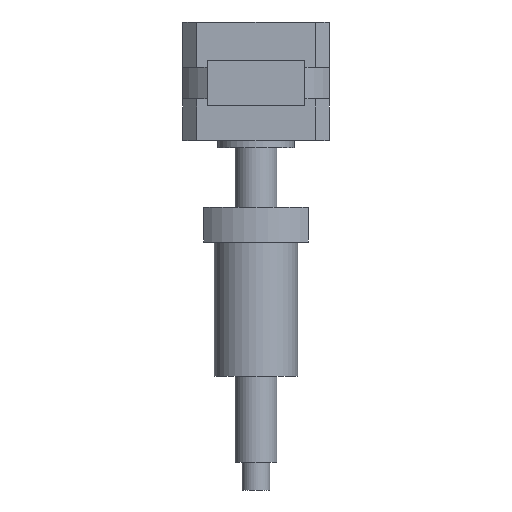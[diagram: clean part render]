
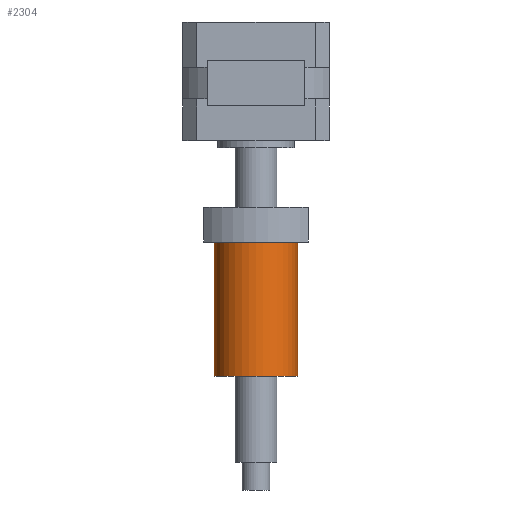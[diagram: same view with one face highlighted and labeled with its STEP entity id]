
A CAD part, front view. The second image highlights one B-rep face of the part: STEP entity #2304.
In plain terms, the highlighted cylindrical face has radius 12 mm (diameter 24 mm), a partial arc.
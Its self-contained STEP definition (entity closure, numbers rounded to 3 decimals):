
#544 = EDGE_CURVE ( 'NONE', #4508, #2194, #1200, .T. ) ;
#804 = EDGE_CURVE ( 'NONE', #3323, #4780, #7271, .T. ) ;
#888 = ORIENTED_EDGE ( 'NONE', *, *, #5105, .F. ) ;
#1151 = AXIS2_PLACEMENT_3D ( 'NONE', #5951, #2010, #7056 ) ;
#1173 = ORIENTED_EDGE ( 'NONE', *, *, #544, .F. ) ;
#1200 = CIRCLE ( 'NONE', #3260, 12. ) ;
#1222 = DIRECTION ( 'NONE',  ( 0., 0., 1. ) ) ;
#1270 = DIRECTION ( 'NONE',  ( 0., 0., 1. ) ) ;
#1331 = VECTOR ( 'NONE', #5976, 1000. ) ;
#1421 = ORIENTED_EDGE ( 'NONE', *, *, #4306, .T. ) ;
#1478 = DIRECTION ( 'NONE',  ( 0., 0., 1. ) ) ;
#1888 = FACE_OUTER_BOUND ( 'NONE', #7258, .T. ) ;
#1992 = AXIS2_PLACEMENT_3D ( 'NONE', #4834, #1478, #5402 ) ;
#2010 = DIRECTION ( 'NONE',  ( 0., 0., 1. ) ) ;
#2132 = CARTESIAN_POINT ( 'NONE',  ( -12., 0., -48.5 ) ) ;
#2194 = VERTEX_POINT ( 'NONE', #6912 ) ;
#2304 = ADVANCED_FACE ( 'NONE', ( #1888 ), #4702, .T. ) ;
#3260 = AXIS2_PLACEMENT_3D ( 'NONE', #4635, #1270, #5186 ) ;
#3323 = VERTEX_POINT ( 'NONE', #2132 ) ;
#3617 = CARTESIAN_POINT ( 'NONE',  ( 12., 0., -48.5 ) ) ;
#4306 = EDGE_CURVE ( 'NONE', #4780, #2194, #5995, .T. ) ;
#4340 = VECTOR ( 'NONE', #1222, 1000. ) ;
#4493 = CARTESIAN_POINT ( 'NONE',  ( -12., 0., -10. ) ) ;
#4508 = VERTEX_POINT ( 'NONE', #4493 ) ;
#4635 = CARTESIAN_POINT ( 'NONE',  ( 0., 0., -10. ) ) ;
#4702 = CYLINDRICAL_SURFACE ( 'NONE', #1151, 12. ) ;
#4780 = VERTEX_POINT ( 'NONE', #3617 ) ;
#4834 = CARTESIAN_POINT ( 'NONE',  ( 0., 0., -48.5 ) ) ;
#5105 = EDGE_CURVE ( 'NONE', #3323, #4508, #5837, .T. ) ;
#5186 = DIRECTION ( 'NONE',  ( 1., 0., 0. ) ) ;
#5238 = ORIENTED_EDGE ( 'NONE', *, *, #804, .T. ) ;
#5402 = DIRECTION ( 'NONE',  ( 1., 0., 0. ) ) ;
#5837 = LINE ( 'NONE', #6829, #4340 ) ;
#5951 = CARTESIAN_POINT ( 'NONE',  ( 0., 0., -48.5 ) ) ;
#5976 = DIRECTION ( 'NONE',  ( 0., 0., 1. ) ) ;
#5995 = LINE ( 'NONE', #6532, #1331 ) ;
#6532 = CARTESIAN_POINT ( 'NONE',  ( 12., 0., -48.5 ) ) ;
#6829 = CARTESIAN_POINT ( 'NONE',  ( -12., 0., -48.5 ) ) ;
#6912 = CARTESIAN_POINT ( 'NONE',  ( 12., 0., -10. ) ) ;
#7056 = DIRECTION ( 'NONE',  ( 1., 0., 0. ) ) ;
#7258 = EDGE_LOOP ( 'NONE', ( #888, #5238, #1421, #1173 ) ) ;
#7271 = CIRCLE ( 'NONE', #1992, 12. ) ;
